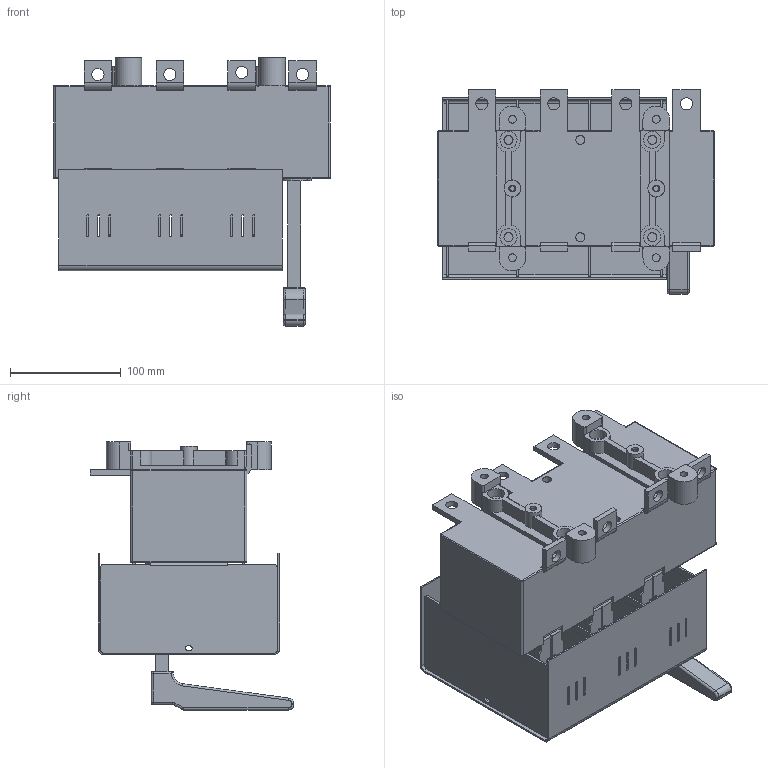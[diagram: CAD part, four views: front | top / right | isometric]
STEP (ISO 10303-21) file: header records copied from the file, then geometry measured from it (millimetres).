
FILE_DESCRIPTION(/* description */ (''),/* implementation_level */ '2;1');
FILE_NAME(/* name */ 'RAB 2 P3 NA-R.stp',/* time_stamp */ '2021-08-19T13:40:35+02:00',/* author */ (''),/* organization */ (''),/* preprocessor_version */ 'ST-DEVELOPER v18.1',/* originating_system */ 'SIEMENS PLM Software NX 1965',/* authorisation */ '');
FILE_SCHEMA (('PROCESS_PLANNING_SCHEMA'));
Length unit declared in the file: millimetre
Products named in the file (1): RAB 2 P3 NA-R_stp
Bounding box: 250 x 184.15 x 242.3 mm (x, y, z)
Volume: 2500688.3 mm3; surface area: 450652.6 mm2
Topology: 1 solids, 7 shells, 1176 faces, 3191 edges, 2056 vertices
Faces by surface type: plane 745, cylinder 409, torus 13, sphere 6, bspline 3
Full cylindrical faces by diameter (mm): 4.8 x2, 5.2 x18, 6.2 x2, 7 x4, 8.2 x6, 11 x8, 14 x4, 15 x2, 15.5 x4
Entity records: 36890 total; most frequent: CARTESIAN_POINT 6511, DIRECTION 6309, ORIENTED_EDGE 6262, EDGE_CURVE 3131, LINE 2273, VECTOR 2273, VERTEX_POINT 2052, AXIS2_PLACEMENT_3D 2018
